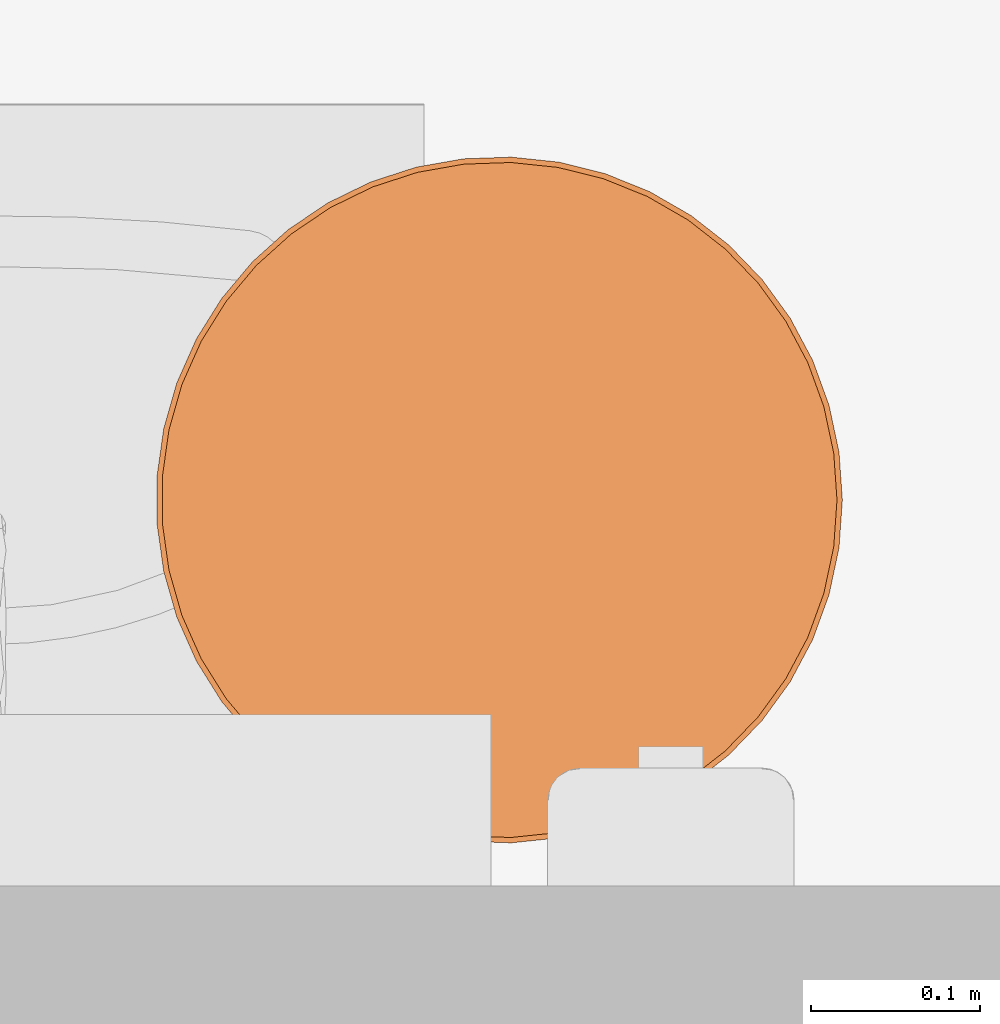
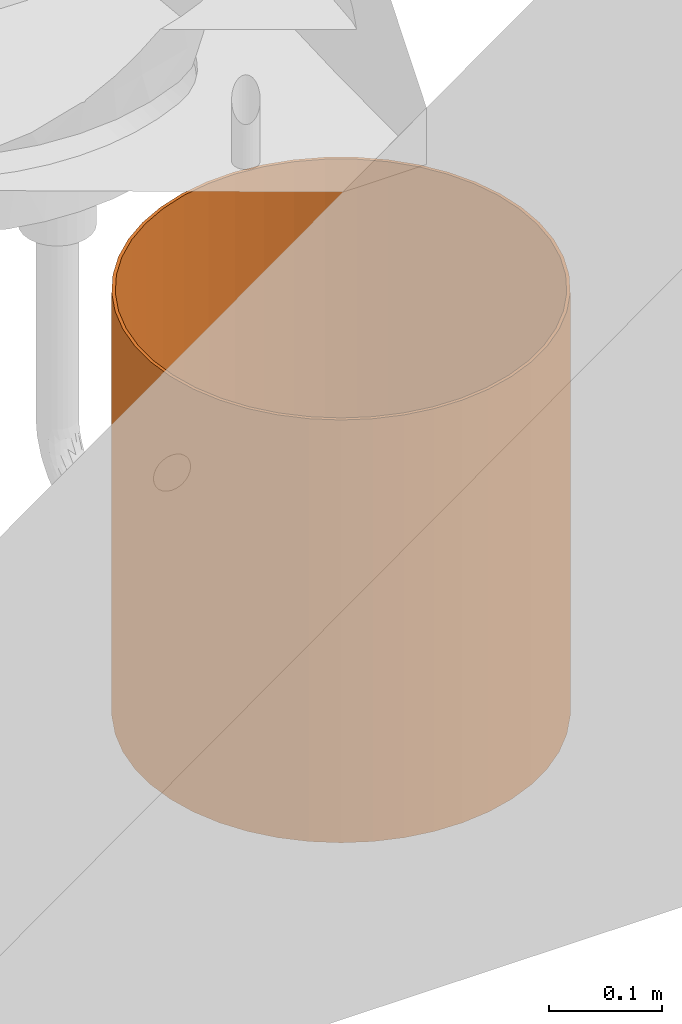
# One storey, part 85 of 142: 1 proxy.
"""IFC2X3 building model written with IfcOpenShell, lengths in feet."""

from ifc_helpers import new_model, entity, si_unit, converted_unit, derived_unit, direction, frame, frame_2d, origin, place, context, subcontext, project, spatial, circle, hollow_circle, extrude, source, transform, mapped, type_object, type_shapes, element, save


model = new_model("IFC2X3")

# Units and contexts
model_context = context("Model", 3, precision=0.0001, world=origin(), true_north=direction((6.12303176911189e-17, 1.0)))
body_context = subcontext(model_context, "Body", "Model", "MODEL_VIEW")
ifc_project = project(units=[converted_unit("LENGTHUNIT", "FOOT", entity("IfcRatioMeasure", 0.3048), si_unit("LENGTHUNIT", "METRE"), dimensions=[1, 0, 0, 0, 0, 0, 0]), converted_unit("AREAUNIT", "SQUARE FOOT", entity("IfcRatioMeasure", 0.09290304), si_unit("AREAUNIT", "SQUARE_METRE"), dimensions=[2, 0, 0, 0, 0, 0, 0]), converted_unit("VOLUMEUNIT", "CUBIC FOOT", entity("IfcRatioMeasure", 0.028316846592), si_unit("VOLUMEUNIT", "CUBIC_METRE"), dimensions=[3, 0, 0, 0, 0, 0, 0]), converted_unit("PLANEANGLEUNIT", "DEGREE", entity("IfcRatioMeasure", 0.0174532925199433), si_unit("PLANEANGLEUNIT", "RADIAN"), dimensions=[0, 0, 0, 0, 0, 0, 0]), si_unit("MASSUNIT", "GRAM", prefix="KILO"), derived_unit("MASSDENSITYUNIT", [(si_unit("MASSUNIT", "GRAM", prefix="KILO"), 1), (si_unit("LENGTHUNIT", "METRE"), -3)]), si_unit("TIMEUNIT", "SECOND"), si_unit("FREQUENCYUNIT", "HERTZ"), si_unit("THERMODYNAMICTEMPERATUREUNIT", "DEGREE_CELSIUS"), derived_unit("THERMALTRANSMITTANCEUNIT", [(si_unit("MASSUNIT", "GRAM", prefix="KILO"), 1), (si_unit("THERMODYNAMICTEMPERATUREUNIT", "KELVIN"), -1), (si_unit("TIMEUNIT", "SECOND"), -3)]), derived_unit("VOLUMETRICFLOWRATEUNIT", [(si_unit("LENGTHUNIT", "METRE"), 3), (si_unit("TIMEUNIT", "SECOND"), -1)]), si_unit("ELECTRICCURRENTUNIT", "AMPERE"), si_unit("ELECTRICVOLTAGEUNIT", "VOLT"), si_unit("POWERUNIT", "WATT"), si_unit("FORCEUNIT", "NEWTON"), si_unit("ILLUMINANCEUNIT", "LUX"), si_unit("LUMINOUSFLUXUNIT", "LUMEN"), si_unit("LUMINOUSINTENSITYUNIT", "CANDELA"), derived_unit("USERDEFINED", [(si_unit("MASSUNIT", "GRAM", prefix="KILO"), -1), (si_unit("LENGTHUNIT", "METRE"), -2), (si_unit("TIMEUNIT", "SECOND"), 3), (si_unit("LUMINOUSFLUXUNIT", "LUMEN"), 1)]), derived_unit("LINEARVELOCITYUNIT", [(si_unit("LENGTHUNIT", "METRE"), 1), (si_unit("TIMEUNIT", "SECOND"), -1)]), si_unit("PRESSUREUNIT", "PASCAL"), derived_unit("USERDEFINED", [(si_unit("LENGTHUNIT", "METRE"), -2), (si_unit("MASSUNIT", "GRAM", prefix="KILO"), 1), (si_unit("TIMEUNIT", "SECOND"), -2)])], contexts=[model_context])

# Site, building, storey, space
site_placement = place(None, origin())
site = spatial("IfcSite", under=ifc_project, at=site_placement, Name="Default", CompositionType="ELEMENT")
building_placement = place(site_placement, origin())
building = spatial("IfcBuilding", under=site, at=building_placement, Name="OUTPATIENT / PACT CLINIC (Ch. 265)", CompositionType="ELEMENT")
storey_placement = place(building_placement, origin())
storey = spatial("IfcBuildingStorey", under=building, at=storey_placement, Name="LEVEL 1", CompositionType="ELEMENT", Elevation=0.0)
space_placement = place(storey_placement, origin())
space = spatial("IfcSpace", under=storey, at=space_placement, Name="TPG01", CompositionType="ELEMENT", InteriorOrExteriorSpace="INTERNAL")

# Proxy
building_element_proxy_type = type_object("IfcBuildingElementProxyType", Name="F2000 - Basket, Wastepaper", PredefinedType="NOTDEFINED")
shared_shape = source(origin(), body_context, "Body", "SweptSolid", [
    extrude(circle(Radius=0.666666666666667, at=frame_2d((0.0, -1.07702971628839e-15), x_axis=(1.0, 0.0))), origin(), (0.0, 0.0, 1.0), 0.0104166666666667),
    extrude(hollow_circle(Radius=0.666666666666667, WallThickness=0.0104166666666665, at=frame_2d((0.0, -1.07702971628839e-15), x_axis=(1.0, 0.0))), frame((0.0, 0.0, 0.0104166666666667)), (0.0, 0.0, 1.0), 1.48958333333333),
])
type_shapes(building_element_proxy_type, [shared_shape])
proxy_placement = place(space_placement, frame((437.505067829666, -941.295489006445, 0.0)))
element("IfcBuildingElementProxy", 1, at=proxy_placement, inside=space, type_object=building_element_proxy_type, Name="F2000 - Basket, Wastepaper:F2000 - Basket, Wastepaper", ObjectType="F2000 - Basket, Wastepaper", context=body_context, shape_type="MappedRepresentation", body=[
    mapped(shared_shape, transform((0.0, 0.0, 0.0), scale=1.0)),
])

save(model, "model.ifc")
